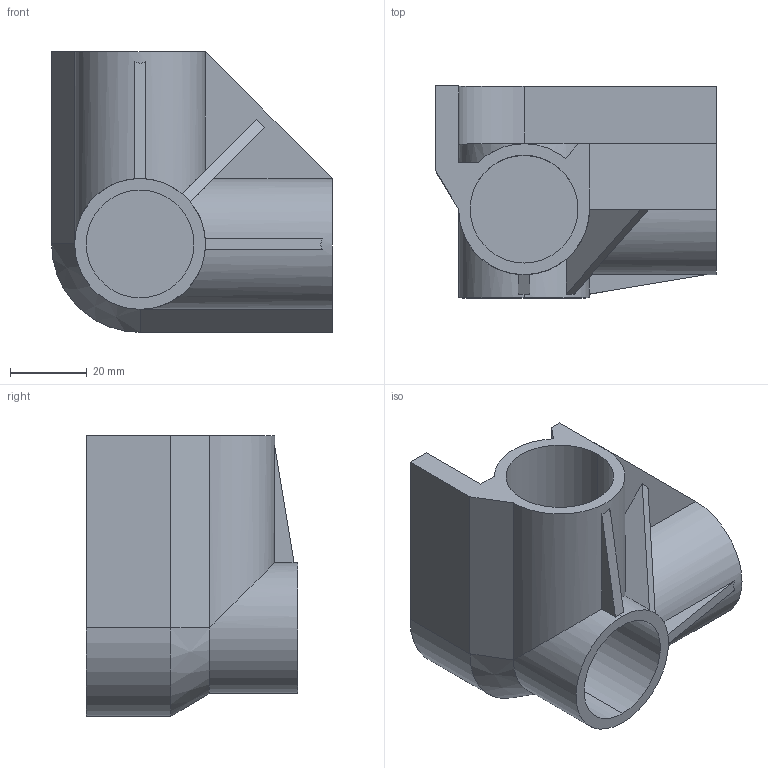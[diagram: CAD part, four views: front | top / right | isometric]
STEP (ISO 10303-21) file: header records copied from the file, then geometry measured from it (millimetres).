
FILE_DESCRIPTION (( 'STEP AP214' ), '1' );
FILE_NAME ('PJ-607.STEP', '2023-10-11T06:25:45', ( 'catia' ), ( 'HP Inc.' ), 'SwSTEP 2.0', 'SolidWorks 2021', '' );
FILE_SCHEMA (( 'AUTOMOTIVE_DESIGN' ));
Length unit declared in the file: millimetre
Products named in the file (1): PJ-607
Bounding box: 73 x 55.02 x 73 mm (x, y, z)
Volume: 82025.8 mm3; surface area: 30554.5 mm2
Topology: 1 solids, 1 shells, 49 faces, 121 edges, 77 vertices
Faces by surface type: plane 31, cylinder 17, cone 1
Entity records: 1469 total; most frequent: CARTESIAN_POINT 305, ORIENTED_EDGE 242, DIRECTION 230, EDGE_CURVE 121, AXIS2_PLACEMENT_3D 78, VERTEX_POINT 77, LINE 74, VECTOR 74
